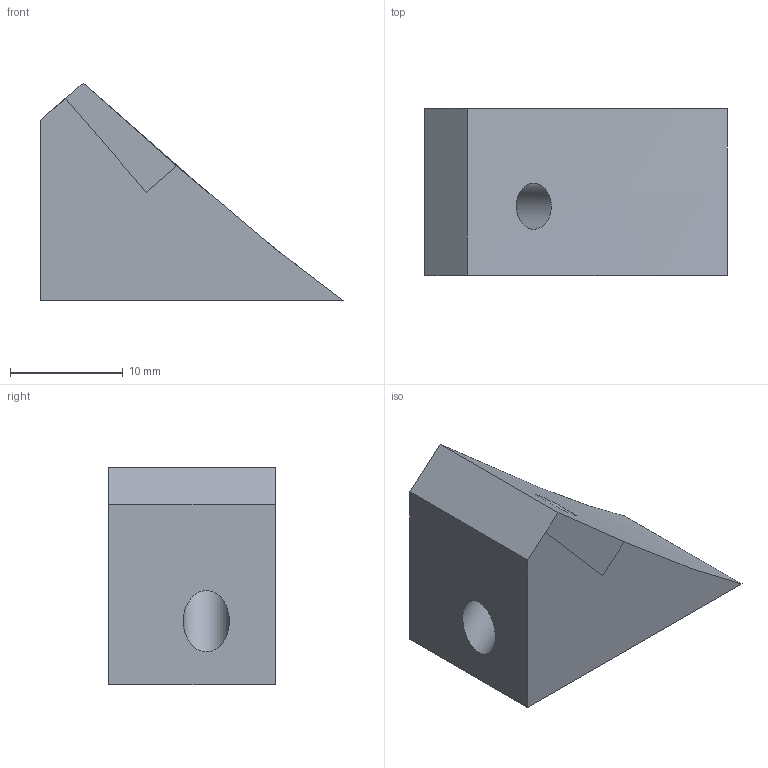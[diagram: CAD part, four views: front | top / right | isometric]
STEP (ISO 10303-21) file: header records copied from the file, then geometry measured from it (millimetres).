
FILE_DESCRIPTION(('FreeCAD Model'),'2;1');
FILE_NAME('Open CASCADE Shape Model','2025-04-04T15:50:35',(''),(''), 'Open CASCADE STEP processor 7.6','FreeCAD','Unknown');
FILE_SCHEMA(('AUTOMOTIVE_DESIGN { 1 0 10303 214 1 1 1 1 }'));
Length unit declared in the file: millimetre
Products named in the file (1): FVCdocisk
Bounding box: 26.88 x 14.8 x 19.33 mm (x, y, z)
Volume: 4012.3 mm3; surface area: 1855.3 mm2
Topology: 1 solids, 1 shells, 8 faces, 20 edges, 14 vertices
Faces by surface type: plane 6, cylinder 1, extrusion 1
Full cylindrical faces by diameter (mm): 4.1 x1
Entity records: 455 total; most frequent: CARTESIAN_POINT 183, ORIENTED_EDGE 40, DIRECTION 33, EDGE_CURVE 20, VECTOR 15, VERTEX_POINT 14, LINE 14, FACE_BOUND 10
